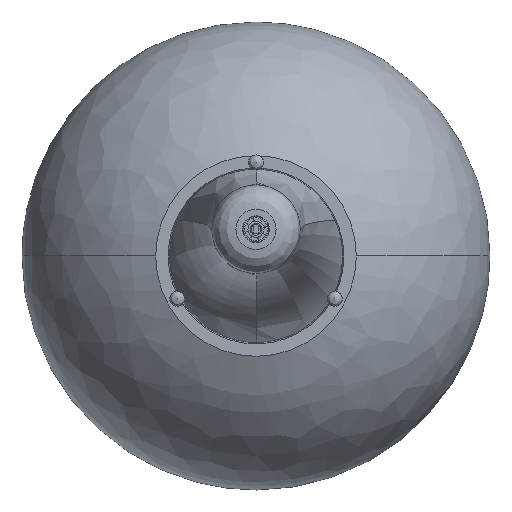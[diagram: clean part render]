
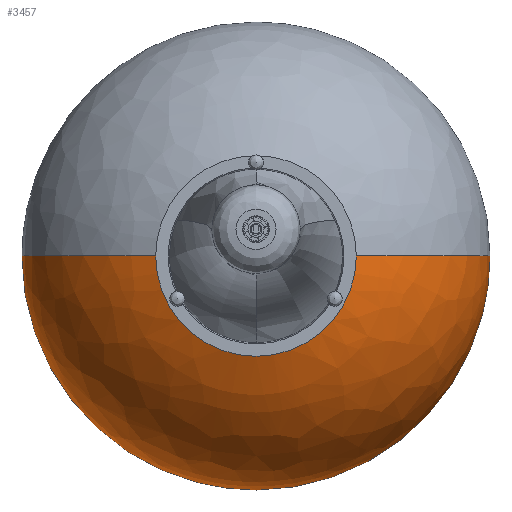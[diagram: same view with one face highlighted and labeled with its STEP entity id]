
A CAD part, front view. The second image highlights one B-rep face of the part: STEP entity #3457.
In plain terms, the highlighted free-form (B-spline) face has degree [2, 2] with [5, 3] control points.
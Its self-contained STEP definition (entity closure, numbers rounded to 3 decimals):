
#136=ELLIPSE('',#3942,174.045,150.);
#137=ELLIPSE('',#3943,174.045,150.);
#157=(
BOUNDED_SURFACE()
B_SPLINE_SURFACE(2,2,((#10838,#10839,#10840),(#10841,#10842,#10843),(#10844,
#10845,#10846),(#10847,#10848,#10849),(#10850,#10851,#10852)),
 .UNSPECIFIED.,.F.,.F.,.F.)
B_SPLINE_SURFACE_WITH_KNOTS((3,2,3),(3,3),(0.,274.889,549.779),
(0.,178.982),.UNSPECIFIED.)
GEOMETRIC_REPRESENTATION_ITEM()
RATIONAL_B_SPLINE_SURFACE(((1.,0.792,0.88),(0.707,
0.56,0.622),(1.,0.792,0.88),
(0.707,0.56,0.622),(1.,0.792,
0.88)))
REPRESENTATION_ITEM('')
SURFACE()
);
#256=CIRCLE('',#3915,75.);
#627=FACE_OUTER_BOUND('',#827,.T.);
#827=EDGE_LOOP('',(#2469,#2470,#2471,#2472,#2473));
#1054=B_SPLINE_CURVE_WITH_KNOTS('',3,(#10858,#10859,#10860,#10861,#10862,
#10863,#10864,#10865,#10866,#10867,#10868,#10869,#10870,#10871,#10872,#10873,
#10874,#10875,#10876,#10877,#10878,#10879,#10880,#10881,#10882,#10883,#10884,
#10885,#10886,#10887,#10888,#10889,#10890,#10891),.UNSPECIFIED.,.F.,.F.,
(4,3,3,3,3,3,3,3,3,3,3,4),(0.,24.99,49.98,74.97,
99.96,124.95,149.94,174.93,199.92,
224.909,249.899,274.889),.UNSPECIFIED.);
#1055=B_SPLINE_CURVE_WITH_KNOTS('',3,(#10892,#10893,#10894,#10895,#10896,
#10897,#10898,#10899,#10900,#10901,#10902,#10903,#10904,#10905,#10906,#10907,
#10908,#10909,#10910,#10911,#10912,#10913,#10914,#10915,#10916,#10917,#10918,
#10919,#10920,#10921,#10922,#10923,#10924,#10925),.UNSPECIFIED.,.F.,.F.,
(4,3,3,3,3,3,3,3,3,3,3,4),(274.889,299.879,324.869,
349.859,374.849,399.839,424.829,449.819,
474.809,499.799,524.789,549.779),
 .UNSPECIFIED.);
#1501=VERTEX_POINT('',#6285);
#1502=VERTEX_POINT('',#6286);
#1528=VERTEX_POINT('',#10853);
#1529=VERTEX_POINT('',#10855);
#1530=VERTEX_POINT('',#10857);
#1862=EDGE_CURVE('',#1501,#1502,#256,.T.);
#1901=EDGE_CURVE('',#1528,#1501,#136,.T.);
#1902=EDGE_CURVE('',#1529,#1502,#137,.T.);
#1903=EDGE_CURVE('',#1529,#1530,#1054,.T.);
#1904=EDGE_CURVE('',#1530,#1528,#1055,.T.);
#2469=ORIENTED_EDGE('',*,*,#1901,.T.);
#2470=ORIENTED_EDGE('',*,*,#1862,.T.);
#2471=ORIENTED_EDGE('',*,*,#1902,.F.);
#2472=ORIENTED_EDGE('',*,*,#1903,.T.);
#2473=ORIENTED_EDGE('',*,*,#1904,.T.);
#3457=ADVANCED_FACE('',(#627),#157,.T.);
#3915=AXIS2_PLACEMENT_3D('',#6287,#4383,#4384);
#3942=AXIS2_PLACEMENT_3D('',#10854,#4440,#4441);
#3943=AXIS2_PLACEMENT_3D('',#10856,#4442,#4443);
#4383=DIRECTION('center_axis',(0.,0.,-1.));
#4384=DIRECTION('ref_axis',(0.,1.,0.));
#4440=DIRECTION('center_axis',(-1.,0.,
0.));
#4441=DIRECTION('ref_axis',(0.,-1.,0.));
#4442=DIRECTION('center_axis',(1.,0.,0.));
#4443=DIRECTION('ref_axis',(0.,-1.,0.));
#6285=CARTESIAN_POINT('',(-20.,-75.,40.748));
#6286=CARTESIAN_POINT('',(-20.,75.,40.748));
#6287=CARTESIAN_POINT('Origin',(-20.,0.,40.748));
#10838=CARTESIAN_POINT('Ctrl Pts',(-20.,175.,-95.));
#10839=CARTESIAN_POINT('Ctrl Pts',(-20.,175.,0.233));
#10840=CARTESIAN_POINT('Ctrl Pts',(-20.,75.,40.748));
#10841=CARTESIAN_POINT('Ctrl Pts',(-195.,175.,-95.));
#10842=CARTESIAN_POINT('Ctrl Pts',(-195.,175.,0.233));
#10843=CARTESIAN_POINT('Ctrl Pts',(-95.,75.,40.748));
#10844=CARTESIAN_POINT('Ctrl Pts',(-195.,0.,
-95.));
#10845=CARTESIAN_POINT('Ctrl Pts',(-195.,0.,
0.233));
#10846=CARTESIAN_POINT('Ctrl Pts',(-95.,0.,
40.748));
#10847=CARTESIAN_POINT('Ctrl Pts',(-195.,-175.,
-95.));
#10848=CARTESIAN_POINT('Ctrl Pts',(-195.,-175.,
0.233));
#10849=CARTESIAN_POINT('Ctrl Pts',(-95.,-75.,40.748));
#10850=CARTESIAN_POINT('Ctrl Pts',(-20.,-175.,
-95.));
#10851=CARTESIAN_POINT('Ctrl Pts',(-20.,-175.,
0.233));
#10852=CARTESIAN_POINT('Ctrl Pts',(-20.,-75.,
40.748));
#10853=CARTESIAN_POINT('',(-20.,-175.,-95.));
#10854=CARTESIAN_POINT('Origin',(-20.,-0.955,-95.));
#10855=CARTESIAN_POINT('',(-20.,175.,-95.));
#10856=CARTESIAN_POINT('Origin',(-20.,0.955,-95.));
#10857=CARTESIAN_POINT('',(-195.,0.,-95.));
#10858=CARTESIAN_POINT('Ctrl Pts',(-20.,175.,-95.));
#10859=CARTESIAN_POINT('Ctrl Pts',(-28.318,174.999,-95.));
#10860=CARTESIAN_POINT('Ctrl Pts',(-36.644,174.405,-95.));
#10861=CARTESIAN_POINT('Ctrl Pts',(-44.886,173.221,-95.));
#10862=CARTESIAN_POINT('Ctrl Pts',(-53.128,172.038,-95.));
#10863=CARTESIAN_POINT('Ctrl Pts',(-61.285,170.264,-95.));
#10864=CARTESIAN_POINT('Ctrl Pts',(-69.274,167.92,-95.));
#10865=CARTESIAN_POINT('Ctrl Pts',(-77.264,165.575,-95.));
#10866=CARTESIAN_POINT('Ctrl Pts',(-85.087,162.66,-95.));
#10867=CARTESIAN_POINT('Ctrl Pts',(-92.671,159.198,-95.));
#10868=CARTESIAN_POINT('Ctrl Pts',(-100.255,155.735,-95.));
#10869=CARTESIAN_POINT('Ctrl Pts',(-107.6,151.725,-95.));
#10870=CARTESIAN_POINT('Ctrl Pts',(-114.613,147.219,-95.));
#10871=CARTESIAN_POINT('Ctrl Pts',(-121.626,142.713,-95.));
#10872=CARTESIAN_POINT('Ctrl Pts',(-128.306,137.711,-95.));
#10873=CARTESIAN_POINT('Ctrl Pts',(-134.6,132.257,-95.));
#10874=CARTESIAN_POINT('Ctrl Pts',(-140.894,126.803,-95.));
#10875=CARTESIAN_POINT('Ctrl Pts',(-146.8,120.897,-95.));
#10876=CARTESIAN_POINT('Ctrl Pts',(-152.257,114.6,-95.));
#10877=CARTESIAN_POINT('Ctrl Pts',(-157.713,108.303,-95.));
#10878=CARTESIAN_POINT('Ctrl Pts',(-162.719,101.616,-95.));
#10879=CARTESIAN_POINT('Ctrl Pts',(-167.223,94.606,-95.));
#10880=CARTESIAN_POINT('Ctrl Pts',(-171.728,87.595,-95.));
#10881=CARTESIAN_POINT('Ctrl Pts',(-175.732,80.262,-95.));
#10882=CARTESIAN_POINT('Ctrl Pts',(-179.193,72.681,-95.));
#10883=CARTESIAN_POINT('Ctrl Pts',(-182.654,65.101,-95.));
#10884=CARTESIAN_POINT('Ctrl Pts',(-185.573,57.273,-95.));
#10885=CARTESIAN_POINT('Ctrl Pts',(-187.92,49.274,-95.));
#10886=CARTESIAN_POINT('Ctrl Pts',(-190.266,41.275,-95.));
#10887=CARTESIAN_POINT('Ctrl Pts',(-192.041,33.105,-95.));
#10888=CARTESIAN_POINT('Ctrl Pts',(-193.224,24.866,-95.));
#10889=CARTESIAN_POINT('Ctrl Pts',(-194.408,16.626,-95.));
#10890=CARTESIAN_POINT('Ctrl Pts',(-195.001,8.318,-95.));
#10891=CARTESIAN_POINT('Ctrl Pts',(-195.,0.,-95.));
#10892=CARTESIAN_POINT('Ctrl Pts',(-195.,0.,-95.));
#10893=CARTESIAN_POINT('Ctrl Pts',(-194.999,-8.318,
-95.));
#10894=CARTESIAN_POINT('Ctrl Pts',(-194.405,-16.644,
-95.));
#10895=CARTESIAN_POINT('Ctrl Pts',(-193.221,-24.886,
-95.));
#10896=CARTESIAN_POINT('Ctrl Pts',(-192.038,-33.128,
-95.));
#10897=CARTESIAN_POINT('Ctrl Pts',(-190.264,-41.285,
-95.));
#10898=CARTESIAN_POINT('Ctrl Pts',(-187.92,-49.274,
-95.));
#10899=CARTESIAN_POINT('Ctrl Pts',(-185.575,-57.264,
-95.));
#10900=CARTESIAN_POINT('Ctrl Pts',(-182.66,-65.087,-95.));
#10901=CARTESIAN_POINT('Ctrl Pts',(-179.198,-72.671,
-95.));
#10902=CARTESIAN_POINT('Ctrl Pts',(-175.735,-80.255,
-95.));
#10903=CARTESIAN_POINT('Ctrl Pts',(-171.725,-87.6,
-95.));
#10904=CARTESIAN_POINT('Ctrl Pts',(-167.219,-94.613,-95.));
#10905=CARTESIAN_POINT('Ctrl Pts',(-162.713,-101.626,
-95.));
#10906=CARTESIAN_POINT('Ctrl Pts',(-157.711,-108.306,-95.));
#10907=CARTESIAN_POINT('Ctrl Pts',(-152.257,-114.6,
-95.));
#10908=CARTESIAN_POINT('Ctrl Pts',(-146.803,-120.894,
-95.));
#10909=CARTESIAN_POINT('Ctrl Pts',(-140.897,-126.8,
-95.));
#10910=CARTESIAN_POINT('Ctrl Pts',(-134.6,-132.257,-95.));
#10911=CARTESIAN_POINT('Ctrl Pts',(-128.303,-137.713,
-95.));
#10912=CARTESIAN_POINT('Ctrl Pts',(-121.616,-142.719,
-95.));
#10913=CARTESIAN_POINT('Ctrl Pts',(-114.606,-147.223,
-95.));
#10914=CARTESIAN_POINT('Ctrl Pts',(-107.595,-151.728,
-95.));
#10915=CARTESIAN_POINT('Ctrl Pts',(-100.262,-155.732,-95.));
#10916=CARTESIAN_POINT('Ctrl Pts',(-92.681,-159.193,
-95.));
#10917=CARTESIAN_POINT('Ctrl Pts',(-85.101,-162.654,
-95.));
#10918=CARTESIAN_POINT('Ctrl Pts',(-77.273,-165.573,
-95.));
#10919=CARTESIAN_POINT('Ctrl Pts',(-69.274,-167.92,
-95.));
#10920=CARTESIAN_POINT('Ctrl Pts',(-61.275,-170.266,
-95.));
#10921=CARTESIAN_POINT('Ctrl Pts',(-53.105,-172.041,
-95.));
#10922=CARTESIAN_POINT('Ctrl Pts',(-44.866,-173.224,
-95.));
#10923=CARTESIAN_POINT('Ctrl Pts',(-36.626,-174.408,
-95.));
#10924=CARTESIAN_POINT('Ctrl Pts',(-28.318,-175.001,
-95.));
#10925=CARTESIAN_POINT('Ctrl Pts',(-20.,-175.,-95.));
